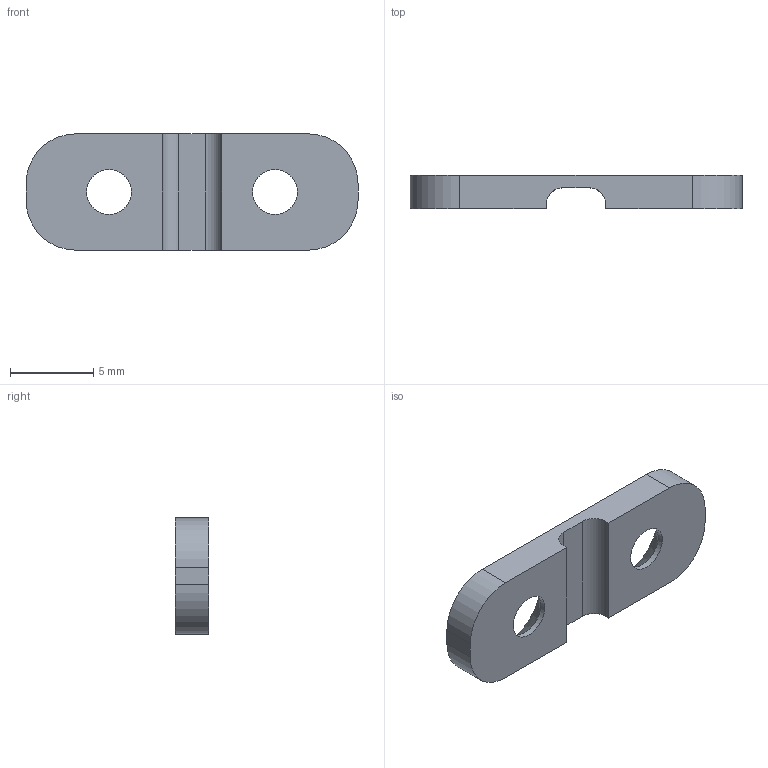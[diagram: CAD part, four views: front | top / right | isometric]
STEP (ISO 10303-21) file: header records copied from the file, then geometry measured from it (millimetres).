
FILE_DESCRIPTION(/* description */ (''),/* implementation_level */ '2;1');
FILE_NAME(/* name */ '210428_TubesOnTop_v1_lam5.stp',/* time_stamp */ '2021-09-10T14:16:29+02:00',/* author */ (''),/* organization */ (''),/* preprocessor_version */ 'ST-DEVELOPER v16.7',/* originating_system */ 'SIEMENS PLM Software NX 1919',/* authorisation */ '');
FILE_SCHEMA (('AUTOMOTIVE_DESIGN { 1 0 10303 214 3 1 1 1 }'));
Length unit declared in the file: millimetre
Products named in the file (1): 210428_TubesOnTop_v1_lam5
Bounding box: 20 x 2 x 7 mm (x, y, z)
Volume: 180.6 mm3; surface area: 367.3 mm2
Topology: 1 solids, 1 shells, 20 faces, 54 edges, 36 vertices
Faces by surface type: plane 10, cylinder 8, cone 2
Full cylindrical faces by diameter (mm): 2.7 x2
Entity records: 630 total; most frequent: DIRECTION 108, CARTESIAN_POINT 103, ORIENTED_EDGE 96, EDGE_CURVE 48, AXIS2_PLACEMENT_3D 39, VERTEX_POINT 34, LINE 30, VECTOR 30
